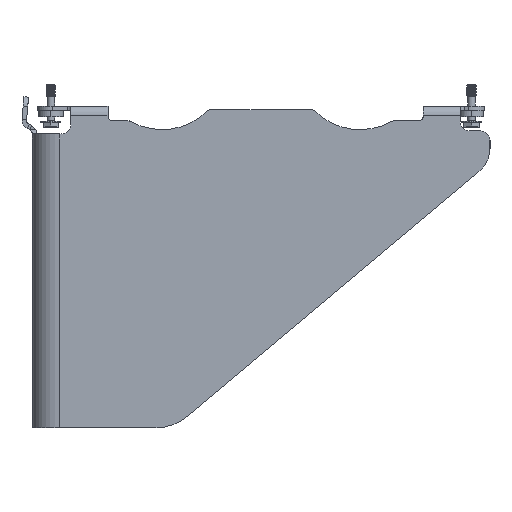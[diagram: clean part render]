
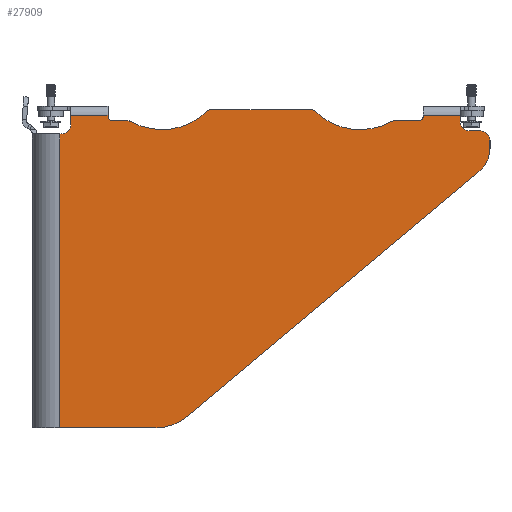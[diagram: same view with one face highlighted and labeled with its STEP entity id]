
A CAD part, left-side view. The second image highlights one B-rep face of the part: STEP entity #27909.
In plain terms, the highlighted planar face has unit normal (-1, 0, 0).
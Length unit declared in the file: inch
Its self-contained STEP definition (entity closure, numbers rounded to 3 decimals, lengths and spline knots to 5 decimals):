
#8696=CARTESIAN_POINT('',(-9.118,5.66184,6.362));
#8697=DIRECTION('',(-1.,0.,0.));
#8698=DIRECTION('',(0.,0.,1.));
#8699=AXIS2_PLACEMENT_3D('',#8696,#8697,#8698);
#8701=DIRECTION('',(0.,1.,0.));
#8702=VECTOR('',#8701,2.07086);
#8703=CARTESIAN_POINT('',(-9.118,3.59098,6.425));
#8704=LINE('',#8703,#8702);
#8705=CARTESIAN_POINT('',(-9.118,3.59098,6.362));
#8706=DIRECTION('',(-1.,0.,0.));
#8707=DIRECTION('',(0.,-0.708,0.707));
#8708=AXIS2_PLACEMENT_3D('',#8705,#8706,#8707);
#8710=CARTESIAN_POINT('',(-9.118,1.95826,6.137));
#8711=DIRECTION('',(1.,0.,0.));
#8712=DIRECTION('',(0.,0.49,0.872));
#8713=AXIS2_PLACEMENT_3D('',#8710,#8711,#8712);
#8715=DIRECTION('',(0.,1.,0.));
#8716=VECTOR('',#8715,0.51526);
#8717=CARTESIAN_POINT('',(-9.118,1.443,6.2));
#8718=LINE('',#8717,#8716);
#8719=DIRECTION('',(0.,0.,1.));
#8720=VECTOR('',#8719,0.021);
#8721=CARTESIAN_POINT('',(-9.118,1.35,6.293));
#8722=LINE('',#8721,#8720);
#8723=DIRECTION('',(0.,0.,-1.));
#8724=VECTOR('',#8723,0.126);
#8725=CARTESIAN_POINT('',(-9.118,0.6,6.314));
#8726=LINE('',#8725,#8724);
#8727=CARTESIAN_POINT('',(-9.118,0.188,5.812));
#8728=DIRECTION('',(-1.,0.,0.));
#8729=DIRECTION('',(0.,-1.,0.));
#8730=AXIS2_PLACEMENT_3D('',#8727,#8728,#8729);
#8732=CARTESIAN_POINT('',(-9.118,0.625,5.64996));
#8733=DIRECTION('',(1.,0.,0.));
#8734=DIRECTION('',(0.,-1.,0.));
#8735=AXIS2_PLACEMENT_3D('',#8732,#8733,#8734);
#8737=DIRECTION('',(0.,0.766,-0.643));
#8738=VECTOR('',#8737,7.68096);
#8739=CARTESIAN_POINT('',(-9.118,0.22326,5.17118));
#8740=LINE('',#8739,#8738);
#8741=CARTESIAN_POINT('',(-9.118,6.75,1.));
#8742=DIRECTION('',(1.,0.,0.));
#8743=DIRECTION('',(0.,-0.643,-0.766));
#8744=AXIS2_PLACEMENT_3D('',#8741,#8742,#8743);
#8746=DIRECTION('',(0.,0.,1.));
#8747=VECTOR('',#8746,5.9375);
#8748=CARTESIAN_POINT('',(-9.118,8.69,0.));
#8749=LINE('',#8748,#8747);
#8750=DIRECTION('',(0.,-1.,0.));
#8751=VECTOR('',#8750,0.033);
#8752=CARTESIAN_POINT('',(-9.118,8.69,5.9375));
#8753=LINE('',#8752,#8751);
#8754=DIRECTION('',(0.,0.,-1.));
#8755=VECTOR('',#8754,0.021);
#8756=CARTESIAN_POINT('',(-9.118,7.719,6.314));
#8757=LINE('',#8756,#8755);
#8758=DIRECTION('',(0.,1.,0.));
#8759=VECTOR('',#8758,0.33144);
#8760=CARTESIAN_POINT('',(-9.118,7.29456,6.2));
#8761=LINE('',#8760,#8759);
#8762=CARTESIAN_POINT('',(-9.118,7.29456,6.137));
#8763=DIRECTION('',(1.,0.,0.));
#8764=DIRECTION('',(0.,0.,1.));
#8765=AXIS2_PLACEMENT_3D('',#8762,#8763,#8764);
#8771=CARTESIAN_POINT('',(-9.118,6.62641,7.325));
#8772=DIRECTION('',(1.,0.,0.));
#8773=DIRECTION('',(0.,-0.708,-0.707));
#8774=AXIS2_PLACEMENT_3D('',#8771,#8772,#8773);
#8793=CARTESIAN_POINT('',(-9.118,7.626,6.293));
#8794=DIRECTION('',(1.,0.,0.));
#8795=DIRECTION('',(0.,0.,-1.));
#8796=AXIS2_PLACEMENT_3D('',#8793,#8794,#8795);
#8824=DIRECTION('',(0.,1.,0.));
#8825=VECTOR('',#8824,0.75);
#8826=CARTESIAN_POINT('',(-9.118,7.719,6.314));
#8827=LINE('',#8826,#8825);
#8934=DIRECTION('',(0.,0.,-1.));
#8935=VECTOR('',#8934,0.1885);
#8936=CARTESIAN_POINT('',(-9.118,8.469,6.314));
#8937=LINE('',#8936,#8935);
#8938=CARTESIAN_POINT('',(-9.118,8.657,6.1255));
#8939=DIRECTION('',(1.,0.,0.));
#8940=DIRECTION('',(0.,-1.,0.));
#8941=AXIS2_PLACEMENT_3D('',#8938,#8939,#8940);
#8987=DIRECTION('',(0.,-1.,0.));
#8988=VECTOR('',#8987,1.94);
#8989=CARTESIAN_POINT('',(-9.118,8.69,0.));
#8990=LINE('',#8989,#8988);
#9003=DIRECTION('',(0.,0.,1.));
#9004=VECTOR('',#9003,0.16204);
#9005=CARTESIAN_POINT('',(-9.118,0.,5.64996));
#9006=LINE('',#9005,#9004);
#9019=DIRECTION('',(0.,-1.,0.));
#9020=VECTOR('',#9019,0.224);
#9021=CARTESIAN_POINT('',(-9.118,0.412,6.));
#9022=LINE('',#9021,#9020);
#9031=CARTESIAN_POINT('',(-9.118,0.412,6.188));
#9032=DIRECTION('',(1.,0.,0.));
#9033=DIRECTION('',(0.,0.,-1.));
#9034=AXIS2_PLACEMENT_3D('',#9031,#9032,#9033);
#9063=DIRECTION('',(0.,1.,0.));
#9064=VECTOR('',#9063,0.75);
#9065=CARTESIAN_POINT('',(-9.118,0.6,6.314));
#9066=LINE('',#9065,#9064);
#9084=CARTESIAN_POINT('',(-9.118,1.443,6.293));
#9085=DIRECTION('',(1.,0.,0.));
#9086=DIRECTION('',(0.,-1.,0.));
#9087=AXIS2_PLACEMENT_3D('',#9084,#9085,#9086);
#9115=CARTESIAN_POINT('',(-9.118,2.62641,7.325));
#9116=DIRECTION('',(1.,0.,0.));
#9117=DIRECTION('',(0.,-0.49,-0.872));
#9118=AXIS2_PLACEMENT_3D('',#9115,#9116,#9117);
#17041=CARTESIAN_POINT('',(-9.118,8.69,0.));
#17042=VERTEX_POINT('',#17041);
#17092=CARTESIAN_POINT('',(-9.118,7.719,6.314));
#17094=VERTEX_POINT('',#17092);
#17095=CARTESIAN_POINT('',(-9.118,8.469,6.314));
#17096=VERTEX_POINT('',#17095);
#17139=CARTESIAN_POINT('',(-9.118,6.10721,0.23396));
#17140=CARTESIAN_POINT('',(-9.118,6.75,0.));
#17141=VERTEX_POINT('',#17139);
#17142=VERTEX_POINT('',#17140);
#17143=CARTESIAN_POINT('',(-9.118,0.,5.64996));
#17144=CARTESIAN_POINT('',(-9.118,0.22326,5.17118));
#17145=VERTEX_POINT('',#17143);
#17146=VERTEX_POINT('',#17144);
#17179=CARTESIAN_POINT('',(-9.118,1.35,6.314));
#17180=VERTEX_POINT('',#17179);
#17181=CARTESIAN_POINT('',(-9.118,0.6,6.314));
#17182=VERTEX_POINT('',#17181);
#17227=CARTESIAN_POINT('',(-9.118,0.412,6.));
#17229=VERTEX_POINT('',#17227);
#17231=CARTESIAN_POINT('',(-9.118,0.6,6.188));
#17233=VERTEX_POINT('',#17231);
#17259=CARTESIAN_POINT('',(-9.118,0.,5.812));
#17260=CARTESIAN_POINT('',(-9.118,0.188,6.));
#17261=VERTEX_POINT('',#17259);
#17262=VERTEX_POINT('',#17260);
#17351=CARTESIAN_POINT('',(-9.118,7.626,6.2));
#17353=VERTEX_POINT('',#17351);
#17355=CARTESIAN_POINT('',(-9.118,7.719,6.293));
#17357=VERTEX_POINT('',#17355);
#17359=CARTESIAN_POINT('',(-9.118,1.35,6.293));
#17361=VERTEX_POINT('',#17359);
#17363=CARTESIAN_POINT('',(-9.118,1.443,6.2));
#17365=VERTEX_POINT('',#17363);
#17399=CARTESIAN_POINT('',(-9.118,5.66184,6.425));
#17400=CARTESIAN_POINT('',(-9.118,5.70642,6.40651));
#17401=VERTEX_POINT('',#17399);
#17402=VERTEX_POINT('',#17400);
#17408=CARTESIAN_POINT('',(-9.118,7.26368,6.19191));
#17410=VERTEX_POINT('',#17408);
#17411=CARTESIAN_POINT('',(-9.118,7.29456,6.2));
#17412=VERTEX_POINT('',#17411);
#17415=CARTESIAN_POINT('',(-9.118,3.5464,6.40651));
#17416=CARTESIAN_POINT('',(-9.118,3.59098,6.425));
#17417=VERTEX_POINT('',#17415);
#17418=VERTEX_POINT('',#17416);
#17424=CARTESIAN_POINT('',(-9.118,1.95826,6.2));
#17426=VERTEX_POINT('',#17424);
#17427=CARTESIAN_POINT('',(-9.118,1.98914,6.19191));
#17428=VERTEX_POINT('',#17427);
#17436=CARTESIAN_POINT('',(-9.118,8.69,5.9375));
#17438=VERTEX_POINT('',#17436);
#17455=CARTESIAN_POINT('',(-9.118,8.469,6.1255));
#17457=VERTEX_POINT('',#17455);
#17459=CARTESIAN_POINT('',(-9.118,8.657,5.9375));
#17461=VERTEX_POINT('',#17459);
#27847=CARTESIAN_POINT('',(-9.118,8.69,0.));
#27848=DIRECTION('',(-1.,0.,0.));
#27849=DIRECTION('',(0.,-1.,0.));
#27850=AXIS2_PLACEMENT_3D('',#27847,#27848,#27849);
#27851=PLANE('',#27850);
#27853=ORIENTED_EDGE('',*,*,#27852,.F.);
#27855=ORIENTED_EDGE('',*,*,#27854,.F.);
#27857=ORIENTED_EDGE('',*,*,#27856,.F.);
#27859=ORIENTED_EDGE('',*,*,#27858,.F.);
#27861=ORIENTED_EDGE('',*,*,#27860,.T.);
#27863=ORIENTED_EDGE('',*,*,#27862,.F.);
#27865=ORIENTED_EDGE('',*,*,#27864,.F.);
#27867=ORIENTED_EDGE('',*,*,#27866,.T.);
#27869=ORIENTED_EDGE('',*,*,#27868,.F.);
#27871=ORIENTED_EDGE('',*,*,#27870,.T.);
#27873=ORIENTED_EDGE('',*,*,#27872,.F.);
#27875=ORIENTED_EDGE('',*,*,#27874,.T.);
#27877=ORIENTED_EDGE('',*,*,#27876,.F.);
#27879=ORIENTED_EDGE('',*,*,#27878,.F.);
#27881=ORIENTED_EDGE('',*,*,#27880,.T.);
#27883=ORIENTED_EDGE('',*,*,#27882,.T.);
#27885=ORIENTED_EDGE('',*,*,#27884,.T.);
#27887=ORIENTED_EDGE('',*,*,#27886,.F.);
#27888=ORIENTED_EDGE('',*,*,#27839,.T.);
#27890=ORIENTED_EDGE('',*,*,#27889,.T.);
#27892=ORIENTED_EDGE('',*,*,#27891,.F.);
#27894=ORIENTED_EDGE('',*,*,#27893,.F.);
#27896=ORIENTED_EDGE('',*,*,#27895,.F.);
#27898=ORIENTED_EDGE('',*,*,#27897,.T.);
#27900=ORIENTED_EDGE('',*,*,#27899,.F.);
#27902=ORIENTED_EDGE('',*,*,#27901,.F.);
#27904=ORIENTED_EDGE('',*,*,#27903,.T.);
#27906=ORIENTED_EDGE('',*,*,#27905,.F.);
#27907=EDGE_LOOP('',(#27853,#27855,#27857,#27859,#27861,#27863,#27865,#27867,
#27869,#27871,#27873,#27875,#27877,#27879,#27881,#27883,#27885,#27887,#27888,
#27890,#27892,#27894,#27896,#27898,#27900,#27902,#27904,#27906));
#27908=FACE_OUTER_BOUND('',#27907,.F.);
#27909=ADVANCED_FACE('',(#27908),#27851,.T.);
#8700=CIRCLE('',#8699,0.063);
#8709=CIRCLE('',#8708,0.063);
#8714=CIRCLE('',#8713,0.063);
#8731=CIRCLE('',#8730,0.188);
#8736=CIRCLE('',#8735,0.625);
#8745=CIRCLE('',#8744,1.);
#8766=CIRCLE('',#8765,0.063);
#8775=CIRCLE('',#8774,1.3);
#8797=CIRCLE('',#8796,0.093);
#8942=CIRCLE('',#8941,0.188);
#9035=CIRCLE('',#9034,0.188);
#9088=CIRCLE('',#9087,0.093);
#9119=CIRCLE('',#9118,1.3);
#27839=EDGE_CURVE('',#17042,#17438,#8749,.T.);
#27852=EDGE_CURVE('',#17401,#17402,#8700,.T.);
#27854=EDGE_CURVE('',#17418,#17401,#8704,.T.);
#27856=EDGE_CURVE('',#17417,#17418,#8709,.T.);
#27858=EDGE_CURVE('',#17428,#17417,#9119,.T.);
#27860=EDGE_CURVE('',#17428,#17426,#8714,.T.);
#27862=EDGE_CURVE('',#17365,#17426,#8718,.T.);
#27864=EDGE_CURVE('',#17361,#17365,#9088,.T.);
#27866=EDGE_CURVE('',#17361,#17180,#8722,.T.);
#27868=EDGE_CURVE('',#17182,#17180,#9066,.T.);
#27870=EDGE_CURVE('',#17182,#17233,#8726,.T.);
#27872=EDGE_CURVE('',#17229,#17233,#9035,.T.);
#27874=EDGE_CURVE('',#17229,#17262,#9022,.T.);
#27876=EDGE_CURVE('',#17261,#17262,#8731,.T.);
#27878=EDGE_CURVE('',#17145,#17261,#9006,.T.);
#27880=EDGE_CURVE('',#17145,#17146,#8736,.T.);
#27882=EDGE_CURVE('',#17146,#17141,#8740,.T.);
#27884=EDGE_CURVE('',#17141,#17142,#8745,.T.);
#27886=EDGE_CURVE('',#17042,#17142,#8990,.T.);
#27889=EDGE_CURVE('',#17438,#17461,#8753,.T.);
#27891=EDGE_CURVE('',#17457,#17461,#8942,.T.);
#27893=EDGE_CURVE('',#17096,#17457,#8937,.T.);
#27895=EDGE_CURVE('',#17094,#17096,#8827,.T.);
#27897=EDGE_CURVE('',#17094,#17357,#8757,.T.);
#27899=EDGE_CURVE('',#17353,#17357,#8797,.T.);
#27901=EDGE_CURVE('',#17412,#17353,#8761,.T.);
#27903=EDGE_CURVE('',#17412,#17410,#8766,.T.);
#27905=EDGE_CURVE('',#17402,#17410,#8775,.T.);
